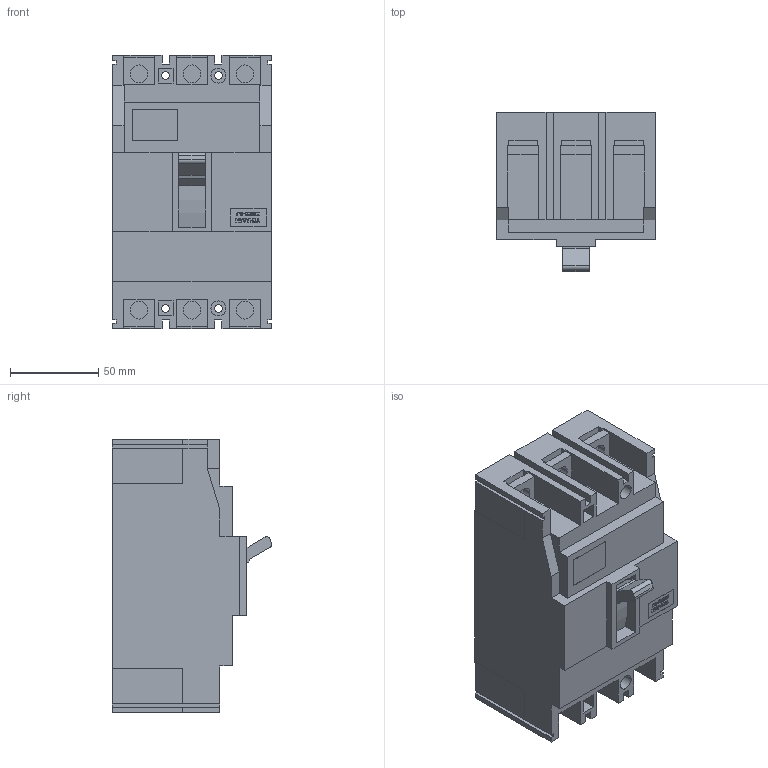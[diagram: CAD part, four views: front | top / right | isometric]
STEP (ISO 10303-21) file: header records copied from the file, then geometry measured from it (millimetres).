
FILE_DESCRIPTION((''),'2;1');
FILE_NAME('ZS125GJ3100','2012-09-20T',('cmahecha'),(''),'PRO/ENGINEER BY PARAMETRIC TECHNOLOGY CORPORATION, 2010280','PRO/ENGINEER BY PARAMETRIC TECHNOLOGY CORPORATION, 2010280','');
FILE_SCHEMA(('CONFIG_CONTROL_DESIGN'));
Length unit declared in the file: millimetre
Products named in the file (1): ZS125GJ3100
Bounding box: 90 x 90.39 x 155 mm (x, y, z)
Volume: 843550 mm3; surface area: 82529 mm2
Topology: 1 solids, 2 shells, 621 faces, 1733 edges, 1150 vertices
Faces by surface type: plane 585, cylinder 36
Entity records: 19635 total; most frequent: CARTESIAN_POINT 3505, ORIENTED_EDGE 3466, DIRECTION 3049, EDGE_CURVE 1733, VECTOR 1661, LINE 1661, VERTEX_POINT 1150, AXIS2_PLACEMENT_3D 694
